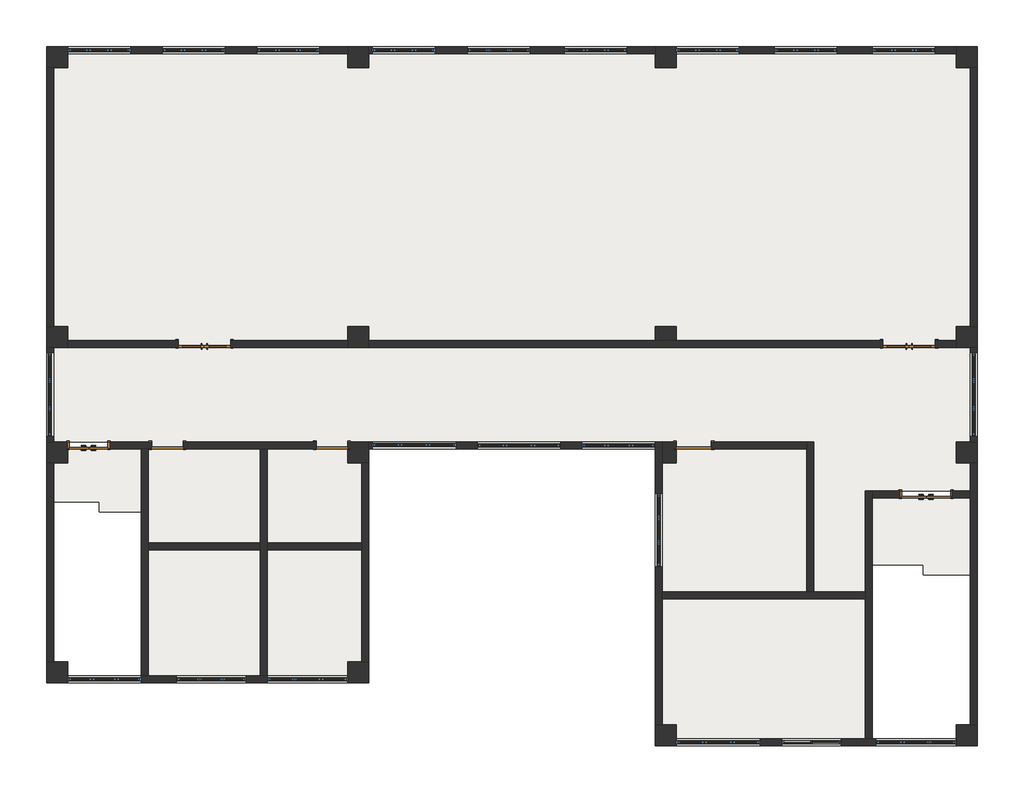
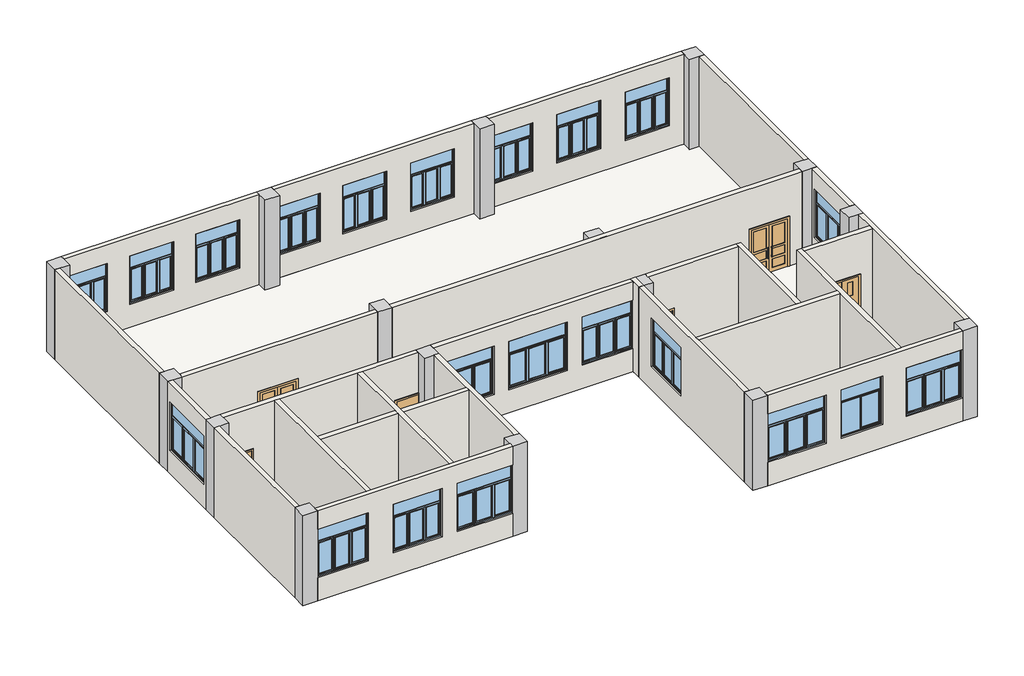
# One storey: 25 walls, 21 windows, 16 columns, 7 doors, 3 slabs.
"""IFC4 building model written with IfcOpenShell, lengths in millimetres."""

from ifc_helpers import new_model, si_unit, frame, origin, place, context, project, spatial, polyline, outline, extrude, faceted_brep, transform, mapped, element, save
from components import column_600x600_242b05fc, fm1221_e838069c, fm1521_f2745f28, m0921_bb00f214, m0921_8cb0c558, m1021_0d59c61f, m1221_b3a166ca, m1521_8e1836e7, c1721_525d0301, c1821_f95a3a67, c2021_733b1f83, c2121_4e8fcc55, c2321_a531f027, c2421_0f87a412

model = new_model("IFC4")

# Units and contexts
model_context = context("Model", 3, world=origin())
ifc_project = project(units=[si_unit("LENGTHUNIT", "METRE", prefix="MILLI")], contexts=[model_context])

# Site, building, storey
site = spatial("IfcSite", under=ifc_project)
building = spatial("IfcBuilding", under=site)
storey = spatial("IfcBuildingStorey", under=building, Name="标高 6", Elevation=14900.0)

# Columns
placement = place(None, origin())
column_600x600_shape = column_600x600_242b05fc(model_context)
element("IfcColumn", 1, ObjectType="混凝土 - 矩形 - 柱 : 600x600", at=placement, inside=storey, context=model_context, shape_type="MappedRepresentation", body=[
    mapped(column_600x600_shape, transform((-12381.7675258, -8436.6725016, 0.0), x_axis=(1.0, 0.0, 0.0), y_axis=(0.0, 1.0, 0.0), z_axis=(0.0, 0.0, 1.0))),
])
element("IfcColumn", 2, ObjectType="混凝土 - 矩形 - 柱 : 600x600", at=placement, inside=storey, context=model_context, shape_type="MappedRepresentation", body=[
    mapped(column_600x600_shape, transform((-12381.7675258, -2136.6725016, 0.0), x_axis=(1.0, 0.0, 0.0), y_axis=(0.0, 1.0, 0.0), z_axis=(0.0, 0.0, 1.0))),
])
element("IfcColumn", 3, ObjectType="混凝土 - 矩形 - 柱 : 600x600", at=placement, inside=storey, context=model_context, shape_type="MappedRepresentation", body=[
    mapped(column_600x600_shape, transform((-12381.7675258, 1163.3274984, 0.0), x_axis=(1.0, 0.0, 0.0), y_axis=(0.0, 1.0, 0.0), z_axis=(0.0, 0.0, 1.0))),
])
element("IfcColumn", 4, ObjectType="混凝土 - 矩形 - 柱 : 600x600", at=placement, inside=storey, context=model_context, shape_type="MappedRepresentation", body=[
    mapped(column_600x600_shape, transform((-12381.7675258, 9163.3274984, 0.0), x_axis=(1.0, 0.0, 0.0), y_axis=(0.0, 1.0, 0.0), z_axis=(0.0, 0.0, 1.0))),
])
element("IfcColumn", 5, ObjectType="混凝土 - 矩形 - 柱 : 600x600", at=placement, inside=storey, context=model_context, shape_type="MappedRepresentation", body=[
    mapped(column_600x600_shape, transform((-3781.7675258, -8436.6725016, 0.0), x_axis=(1.0, 0.0, 0.0), y_axis=(0.0, 1.0, 0.0), z_axis=(0.0, 0.0, 1.0))),
])
element("IfcColumn", 6, ObjectType="混凝土 - 矩形 - 柱 : 600x600", at=placement, inside=storey, context=model_context, shape_type="MappedRepresentation", body=[
    mapped(column_600x600_shape, transform((-3781.7675258, -2136.6725016, 0.0), x_axis=(1.0, 0.0, 0.0), y_axis=(0.0, 1.0, 0.0), z_axis=(0.0, 0.0, 1.0))),
])
element("IfcColumn", 7, ObjectType="混凝土 - 矩形 - 柱 : 600x600", at=placement, inside=storey, context=model_context, shape_type="MappedRepresentation", body=[
    mapped(column_600x600_shape, transform((-3781.7675258, 1163.3274984, 0.0), x_axis=(1.0, 0.0, 0.0), y_axis=(0.0, 1.0, 0.0), z_axis=(0.0, 0.0, 1.0))),
])
element("IfcColumn", 8, ObjectType="混凝土 - 矩形 - 柱 : 600x600", at=placement, inside=storey, context=model_context, shape_type="MappedRepresentation", body=[
    mapped(column_600x600_shape, transform((-3781.7675258, 9163.3274984, 0.0), x_axis=(1.0, 0.0, 0.0), y_axis=(0.0, 1.0, 0.0), z_axis=(0.0, 0.0, 1.0))),
])
element("IfcColumn", 9, ObjectType="混凝土 - 矩形 - 柱 : 600x600", at=placement, inside=storey, context=model_context, shape_type="MappedRepresentation", body=[
    mapped(column_600x600_shape, transform((5018.2324742, -10236.6725016, 0.0), x_axis=(1.0, 0.0, 0.0), y_axis=(0.0, 1.0, 0.0), z_axis=(0.0, 0.0, 1.0))),
])
element("IfcColumn", 10, ObjectType="混凝土 - 矩形 - 柱 : 600x600", at=placement, inside=storey, context=model_context, shape_type="MappedRepresentation", body=[
    mapped(column_600x600_shape, transform((5018.2324742, -2136.6725016, 0.0), x_axis=(1.0, 0.0, 0.0), y_axis=(0.0, 1.0, 0.0), z_axis=(0.0, 0.0, 1.0))),
])
element("IfcColumn", 11, ObjectType="混凝土 - 矩形 - 柱 : 600x600", at=placement, inside=storey, context=model_context, shape_type="MappedRepresentation", body=[
    mapped(column_600x600_shape, transform((5018.2324742, 1163.3274984, 0.0), x_axis=(1.0, 0.0, 0.0), y_axis=(0.0, 1.0, 0.0), z_axis=(0.0, 0.0, 1.0))),
])
element("IfcColumn", 12, ObjectType="混凝土 - 矩形 - 柱 : 600x600", at=placement, inside=storey, context=model_context, shape_type="MappedRepresentation", body=[
    mapped(column_600x600_shape, transform((5018.2324742, 9163.3274984, 0.0), x_axis=(1.0, 0.0, 0.0), y_axis=(0.0, 1.0, 0.0), z_axis=(0.0, 0.0, 1.0))),
])
element("IfcColumn", 13, ObjectType="混凝土 - 矩形 - 柱 : 600x600", at=placement, inside=storey, context=model_context, shape_type="MappedRepresentation", body=[
    mapped(column_600x600_shape, transform((13618.2324742, -10236.6725016, 0.0), x_axis=(1.0, 0.0, 0.0), y_axis=(0.0, 1.0, 0.0), z_axis=(0.0, 0.0, 1.0))),
])
element("IfcColumn", 14, ObjectType="混凝土 - 矩形 - 柱 : 600x600", at=placement, inside=storey, context=model_context, shape_type="MappedRepresentation", body=[
    mapped(column_600x600_shape, transform((13618.2324742, -2136.6725016, 0.0), x_axis=(1.0, 0.0, 0.0), y_axis=(0.0, 1.0, 0.0), z_axis=(0.0, 0.0, 1.0))),
])
element("IfcColumn", 15, ObjectType="混凝土 - 矩形 - 柱 : 600x600", at=placement, inside=storey, context=model_context, shape_type="MappedRepresentation", body=[
    mapped(column_600x600_shape, transform((13618.2324742, 1163.3274984, 0.0), x_axis=(1.0, 0.0, 0.0), y_axis=(0.0, 1.0, 0.0), z_axis=(0.0, 0.0, 1.0))),
])
element("IfcColumn", 16, ObjectType="混凝土 - 矩形 - 柱 : 600x600", at=placement, inside=storey, context=model_context, shape_type="MappedRepresentation", body=[
    mapped(column_600x600_shape, transform((13618.2324742, 9163.3274984, 0.0), x_axis=(1.0, 0.0, 0.0), y_axis=(0.0, 1.0, 0.0), z_axis=(0.0, 0.0, 1.0))),
])

# Doors
fm1221_shape = fm1221_e838069c(model_context)
element("IfcDoor", 17, ObjectType="双扇防火门 : FM1221", at=placement, inside=storey, context=model_context, shape_type="MappedRepresentation", body=[
    mapped(fm1221_shape, transform((-11481.7675258, -1936.6725016, 14900.0), x_axis=(-1.0, 0.0, 0.0), y_axis=(0.0, -1.0, 0.0), z_axis=(0.0, 0.0, 1.0))),
])
fm1521_shape = fm1521_f2745f28(model_context)
element("IfcDoor", 18, ObjectType="双扇防火门 : FM1521", at=placement, inside=storey, context=model_context, shape_type="MappedRepresentation", body=[
    mapped(fm1521_shape, transform((12448.2324742, -3336.6725016, 14900.0), x_axis=(-1.0, 0.0, 0.0), y_axis=(0.0, -1.0, 0.0), z_axis=(0.0, 0.0, 1.0))),
])
m0921_shape = m0921_bb00f214(model_context)
element("IfcDoor", 19, ObjectType="单扇 - 与墙齐 : M0921", at=placement, inside=storey, context=model_context, shape_type="MappedRepresentation", body=[
    mapped(m0921_shape, transform((-4531.7675258, -1936.6725016, 14900.0), x_axis=(1.0, 0.0, 0.0), y_axis=(0.0, 1.0, 0.0), z_axis=(0.0, 0.0, 1.0))),
])
m0921_2_shape = m0921_8cb0c558(model_context)
element("IfcDoor", 20, ObjectType="单扇 - 与墙齐 : M0921", at=placement, inside=storey, context=model_context, shape_type="MappedRepresentation", body=[
    mapped(m0921_2_shape, transform((-9231.7675258, -1936.6725016, 14900.0), x_axis=(-1.0, 0.0, 0.0), y_axis=(0.0, -1.0, 0.0), z_axis=(0.0, 0.0, 1.0))),
])
m1021_shape = m1021_0d59c61f(model_context)
element("IfcDoor", 21, ObjectType="单扇 - 与墙齐 : M1021", at=placement, inside=storey, context=model_context, shape_type="MappedRepresentation", body=[
    mapped(m1021_shape, transform((5818.2324742, -1936.6725016, 14900.0), x_axis=(-1.0, 0.0, 0.0), y_axis=(0.0, -1.0, 0.0), z_axis=(0.0, 0.0, 1.0))),
])
m1221_shape = m1221_b3a166ca(model_context)
m1521_shape = m1521_8e1836e7(model_context)
element("IfcDoor", 22, ObjectType="双面嵌板木门 2 : M1521", at=placement, inside=storey, context=model_context, shape_type="MappedRepresentation", body=[
    mapped(m1221_shape, transform((-8171.7675258, 963.3274984, 14900.0), x_axis=(-1.0, 0.0, 0.0), y_axis=(0.0, -1.0, 0.0), z_axis=(0.0, 0.0, 1.0))),
    mapped(m1521_shape, transform((-8171.7675258, 963.3274984, 14900.0), x_axis=(-1.0, 0.0, 0.0), y_axis=(0.0, -1.0, 0.0), z_axis=(0.0, 0.0, 1.0))),
])
element("IfcDoor", 23, ObjectType="双面嵌板木门 2 : M1521", at=placement, inside=storey, context=model_context, shape_type="MappedRepresentation", body=[
    mapped(m1221_shape, transform((11968.2324742, 963.3274984, 14900.0), x_axis=(-1.0, 0.0, 0.0), y_axis=(0.0, -1.0, 0.0), z_axis=(0.0, 0.0, 1.0))),
    mapped(m1521_shape, transform((11968.2324742, 963.3274984, 14900.0), x_axis=(-1.0, 0.0, 0.0), y_axis=(0.0, -1.0, 0.0), z_axis=(0.0, 0.0, 1.0))),
])

# Slabs
element("IfcSlab", 24, ObjectType="楼板-120", at=placement, inside=storey, context=model_context, shape_type="SweptSolid", body=[
    extrude(outline(polyline([(13718.2324742, 9263.3274984), (13718.2324742, -3236.6725016), (10718.2324742, -3236.6725016), (10718.2324742, -10336.6725016), (4918.2324742, -10336.6725016), (4918.2324742, -1836.6725016), (-3681.7675258, -1836.6725016), (-3681.7675258, -8536.6725016), (-9781.7675258, -8536.6725016), (-9781.7675258, -1836.6725016), (-12481.7675258, -1836.6725016), (-12481.7675258, 9263.3274984), (13718.2324742, 9263.3274984)])), frame((0.0, 0.0, 14780.0), z_axis=(0.0, 0.0, 1.0), x_axis=(1.0, 0.0, 0.0)), (0.0, 0.0, 1.0), 120.0),
])
element("IfcSlab", 25, ObjectType="楼板-120", at=placement, inside=storey, context=model_context, shape_type="SweptSolid", body=[
    extrude(outline(polyline([(-9987.1675258, -3836.6725016), (-11171.3675258, -3836.6725016), (-11171.3675258, -3556.6725016), (-12476.3675258, -3556.6725016), (-12476.3675258, -2436.6725016), (-12081.7675258, -2436.6725016), (-12081.7675258, -2030.3725016), (-9981.7486258, -2030.3725016), (-9987.1675258, -3836.6725016)])), frame((0.0, 0.0, 14780.0), z_axis=(0.0, 0.0, 1.0), x_axis=(1.0, 0.0, 0.0)), (0.0, 0.0, 1.0), 120.0),
])
element("IfcSlab", 26, ObjectType="楼板-120", at=placement, inside=storey, context=model_context, shape_type="SweptSolid", body=[
    extrude(outline(polyline([(13718.2324742, -3436.6725016), (13718.2324742, -5636.6725016), (12368.2324742, -5636.6725016), (12368.2324742, -5356.6725016), (10913.6324742, -5356.6725016), (10913.6324742, -3436.6725016), (13718.2324742, -3436.6725016)])), frame((0.0, 0.0, 14780.0), z_axis=(0.0, 0.0, 1.0), x_axis=(1.0, 0.0, 0.0)), (0.0, 0.0, 1.0), 120.0),
])

# Walls
element("IfcWall", 27, ObjectType="Q-200", at=placement, inside=storey, context=model_context, shape_type="SweptSolid", body=[
    extrude(outline(polyline([(18800.0, -12081.7675258), (18000.0, -12081.7675258), (18000.0, -10281.7675258), (15900.0, -10281.7675258), (15900.0, -12081.7675258), (14900.0, -12081.7675258), (14900.0, -4081.7675258), (18800.0, -4081.7675258), (18800.0, -12081.7675258)]), holes=[polyline([(15900.0, -6681.7675258), (18000.0, -6681.7675258), (18000.0, -4881.7675258), (15900.0, -4881.7675258), (15900.0, -6681.7675258)]), polyline([(15900.0, -9381.7675258), (18000.0, -9381.7675258), (18000.0, -7581.7675258), (15900.0, -7581.7675258), (15900.0, -9381.7675258)])]), frame((0.0, 9263.3274984, 0.0), z_axis=(0.0, 1.0, 0.0), x_axis=(0.0, 0.0, 1.0)), (0.0, 0.0, 1.0), 200.0),
])
element("IfcWall", 28, ObjectType="Q-200", at=placement, inside=storey, context=model_context, shape_type="SweptSolid", body=[
    extrude(outline(polyline([(14900.0, -3481.7675258), (14900.0, 4718.2324742), (18800.0, 4718.2324742), (18800.0, -3481.7675258), (14900.0, -3481.7675258)]), holes=[polyline([(15900.0, 2118.2324742), (18000.0, 2118.2324742), (18000.0, 3918.2324742), (15900.0, 3918.2324742), (15900.0, 2118.2324742)]), polyline([(15900.0, -661.7675258), (18000.0, -661.7675258), (18000.0, 1138.2324742), (15900.0, 1138.2324742), (15900.0, -661.7675258)]), polyline([(15900.0, -3381.7675258), (18000.0, -3381.7675258), (18000.0, -1581.7675258), (15900.0, -1581.7675258), (15900.0, -3381.7675258)])]), frame((0.0, 9263.3274984, 0.0), z_axis=(0.0, 1.0, 0.0), x_axis=(0.0, 0.0, 1.0)), (0.0, 0.0, 1.0), 200.0),
])
element("IfcWall", 29, ObjectType="Q-200", at=placement, inside=storey, context=model_context, shape_type="SweptSolid", body=[
    extrude(outline(polyline([(14900.0, 5318.2324742), (14900.0, 13318.2324742), (18800.0, 13318.2324742), (18800.0, 5318.2324742), (18000.0, 5318.2324742), (18000.0, 7118.2324742), (15900.0, 7118.2324742), (15900.0, 5318.2324742), (14900.0, 5318.2324742)]), holes=[polyline([(15900.0, 10918.2324742), (18000.0, 10918.2324742), (18000.0, 12718.2324742), (15900.0, 12718.2324742), (15900.0, 10918.2324742)]), polyline([(15900.0, 8118.2324742), (18000.0, 8118.2324742), (18000.0, 9918.2324742), (15900.0, 9918.2324742), (15900.0, 8118.2324742)])]), frame((0.0, 9263.3274984, 0.0), z_axis=(0.0, 1.0, 0.0), x_axis=(0.0, 0.0, 1.0)), (0.0, 0.0, 1.0), 200.0),
])
element("IfcWall", 30, ObjectType="Q-200", at=placement, inside=storey, context=model_context, shape_type="SweptSolid", body=[
    extrude(outline(polyline([(13718.2324742, 1463.3274984), (13718.2324742, 8863.3274984), (13918.2324742, 8863.3274984), (13918.2324742, 1463.3274984), (13718.2324742, 1463.3274984)])), frame((0.0, 0.0, 14900.0), z_axis=(0.0, 0.0, 1.0), x_axis=(1.0, 0.0, 0.0)), (0.0, 0.0, 1.0), 3900.0),
])
element("IfcWall", 31, ObjectType="Q-200", at=placement, inside=storey, context=model_context, shape_type="SweptSolid", body=[
    extrude(outline(polyline([(863.3274984, 14900.0), (-1836.6725016, 14900.0), (-1836.6725016, 18800.0), (863.3274984, 18800.0), (863.3274984, 14900.0)]), holes=[polyline([(713.3274984, 15900.0), (713.3274984, 18000.0), (-1686.6725016, 18000.0), (-1686.6725016, 15900.0), (713.3274984, 15900.0)])]), frame((13718.2324742, 0.0, 0.0), z_axis=(1.0, 0.0, 0.0), x_axis=(0.0, 1.0, 0.0)), (0.0, 0.0, 1.0), 200.0),
])
element("IfcWall", 32, ObjectType="Q-200", at=placement, inside=storey, context=model_context, shape_type="Brep", body=[
    faceted_brep([(13718.2324742, -2436.6725016, 14900.0), (13718.2324742, -3236.6725016, 14900.0), (13718.2324742, -3436.6725016, 14900.0), (13718.2324742, -9936.6725016, 14900.0), (13718.2324742, -9936.6725016, 18800.0), (13718.2324742, -3436.6725016, 18800.0), (13718.2324742, -3236.6725016, 18800.0), (13718.2324742, -2436.6725016, 18800.0), (13918.2324742, -2436.6725016, 14900.0), (13918.2324742, -2436.6725016, 18800.0), (13918.2324742, -9936.6725016, 18800.0), (13918.2324742, -9936.6725016, 14900.0)], [[[0, 1, 2, 3, 4, 5, 6, 7]], [[8, 9, 10, 11]], [[3, 2, 1, 0, 8, 11]], [[4, 3, 11, 10]], [[7, 6, 5, 4, 10, 9]], [[0, 7, 9, 8]]]),
])
element("IfcWall", 33, ObjectType="Q-200", at=placement, inside=storey, context=model_context, shape_type="Brep", body=[
    faceted_brep([(5318.2324742, -10336.6725016, 14900.0), (5318.2324742, -10336.6725016, 15900.0), (7718.2324742, -10336.6725016, 15900.0), (7718.2324742, -10336.6725016, 18000.0), (5318.2324742, -10336.6725016, 18000.0), (5318.2324742, -10336.6725016, 18800.0), (10718.2324742, -10336.6725016, 18800.0), (10918.2324742, -10336.6725016, 18800.0), (13318.2324742, -10336.6725016, 18800.0), (13318.2324742, -10336.6725016, 14900.0), (10918.2324742, -10336.6725016, 14900.0), (10718.2324742, -10336.6725016, 14900.0), (13308.2324742, -10336.6725016, 15900.0), (13308.2324742, -10336.6725016, 18000.0), (11008.2324742, -10336.6725016, 18000.0), (11008.2324742, -10336.6725016, 15900.0), (10028.2324742, -10336.6725016, 15900.0), (10028.2324742, -10336.6725016, 18000.0), (8328.2324742, -10336.6725016, 18000.0), (8328.2324742, -10336.6725016, 15900.0), (7718.2324742, -10536.6725016, 15900.0), (5318.2324742, -10536.6725016, 15900.0), (5318.2324742, -10536.6725016, 14900.0), (13318.2324742, -10536.6725016, 14900.0), (13318.2324742, -10536.6725016, 18800.0), (5318.2324742, -10536.6725016, 18800.0), (5318.2324742, -10536.6725016, 18000.0), (7718.2324742, -10536.6725016, 18000.0), (13308.2324742, -10536.6725016, 15900.0), (11008.2324742, -10536.6725016, 15900.0), (11008.2324742, -10536.6725016, 18000.0), (13308.2324742, -10536.6725016, 18000.0), (10028.2324742, -10536.6725016, 15900.0), (8328.2324742, -10536.6725016, 15900.0), (8328.2324742, -10536.6725016, 18000.0), (10028.2324742, -10536.6725016, 18000.0)], [[[0, 1, 2, 3, 4, 5, 6, 7, 8, 9, 10, 11], [12, 13, 14, 15], [16, 17, 18, 19]], [[20, 21, 22, 23, 24, 25, 26, 27], [28, 29, 30, 31], [32, 33, 34, 35]], [[0, 11, 10, 9, 23, 22]], [[26, 25, 5, 4]], [[22, 21, 1, 0]], [[8, 7, 6, 5, 25, 24]], [[9, 8, 24, 23]], [[3, 2, 20, 27]], [[4, 3, 27, 26]], [[2, 1, 21, 20]], [[13, 12, 28, 31]], [[14, 13, 31, 30]], [[15, 14, 30, 29]], [[12, 15, 29, 28]], [[17, 16, 32, 35]], [[18, 17, 35, 34]], [[19, 18, 34, 33]], [[16, 19, 33, 32]]]),
])
element("IfcWall", 34, ObjectType="Q-200", at=placement, inside=storey, context=model_context, shape_type="Brep", body=[
    faceted_brep([(4918.2324742, -9936.6725016, 14900.0), (4918.2324742, -6336.6725016, 14900.0), (4918.2324742, -6136.6725016, 14900.0), (4918.2324742, -1836.6725016, 14900.0), (4918.2324742, -1836.6725016, 18800.0), (4918.2324742, -6136.6725016, 18800.0), (4918.2324742, -6336.6725016, 18800.0), (4918.2324742, -9936.6725016, 18800.0), (4918.2324742, -3316.6725016, 15900.0), (4918.2324742, -5416.6725016, 15900.0), (4918.2324742, -5416.6725016, 18000.0), (4918.2324742, -3316.6725016, 18000.0), (4718.2324742, -9936.6725016, 14900.0), (4718.2324742, -9936.6725016, 18800.0), (4718.2324742, -2036.6725016, 18800.0), (4718.2324742, -1836.6725016, 18800.0), (4718.2324742, -1836.6725016, 18000.0), (4718.2324742, -1836.6725016, 15900.0), (4718.2324742, -1836.6725016, 14900.0), (4718.2324742, -2036.6725016, 14900.0), (4718.2324742, -3316.6725016, 15900.0), (4718.2324742, -3316.6725016, 18000.0), (4718.2324742, -5416.6725016, 18000.0), (4718.2324742, -5416.6725016, 15900.0)], [[[0, 1, 2, 3, 4, 5, 6, 7], [8, 9, 10, 11]], [[12, 13, 14, 15, 16, 17, 18, 19], [20, 21, 22, 23]], [[3, 2, 1, 0, 12, 19, 18]], [[7, 6, 5, 4, 15, 14, 13]], [[0, 7, 13, 12]], [[4, 3, 18, 17, 16, 15]], [[21, 20, 8, 11]], [[22, 21, 11, 10]], [[23, 22, 10, 9]], [[20, 23, 9, 8]]]),
])
element("IfcWall", 35, ObjectType="Q-200", at=placement, inside=storey, context=model_context, shape_type="SweptSolid", body=[
    extrude(outline(polyline([(14900.0, 4718.2324742), (15900.0, 4718.2324742), (15900.0, 2618.2324742), (18000.0, 2618.2324742), (18000.0, 4718.2324742), (18800.0, 4718.2324742), (18800.0, -3481.7675258), (14900.0, -3481.7675258), (14900.0, 4718.2324742)]), holes=[polyline([(15900.0, -981.7675258), (15900.0, -3381.7675258), (18000.0, -3381.7675258), (18000.0, -981.7675258), (15900.0, -981.7675258)]), polyline([(15900.0, -381.7675258), (18000.0, -381.7675258), (18000.0, 2018.2324742), (15900.0, 2018.2324742), (15900.0, -381.7675258)])]), frame((0.0, -2036.6725016, 0.0), z_axis=(0.0, 1.0, 0.0), x_axis=(0.0, 0.0, 1.0)), (0.0, 0.0, 1.0), 200.0),
])
element("IfcWall", 36, ObjectType="Q-200", at=placement, inside=storey, context=model_context, shape_type="Brep", body=[
    faceted_brep([(-3681.7675258, -2436.6725016, 14900.0), (-3681.7675258, -4736.6725016, 14900.0), (-3681.7675258, -4936.6725016, 14900.0), (-3681.7675258, -8136.6725016, 14900.0), (-3681.7675258, -8136.6725016, 18800.0), (-3681.7675258, -4936.6725016, 18800.0), (-3681.7675258, -4736.6725016, 18800.0), (-3681.7675258, -2436.6725016, 18800.0), (-3481.7675258, -2436.6725016, 14900.0), (-3481.7675258, -2436.6725016, 18800.0), (-3481.7675258, -8136.6725016, 18800.0), (-3481.7675258, -8136.6725016, 14900.0)], [[[0, 1, 2, 3, 4, 5, 6, 7]], [[8, 9, 10, 11]], [[3, 2, 1, 0, 8, 11]], [[4, 3, 11, 10]], [[7, 6, 5, 4, 10, 9]], [[0, 7, 9, 8]]]),
])
element("IfcWall", 37, ObjectType="Q-200", at=placement, inside=storey, context=model_context, shape_type="Brep", body=[
    faceted_brep([(-12081.7675258, -8536.6725016, 14900.0), (-12081.7675258, -8536.6725016, 15900.0), (-9981.7675258, -8536.6725016, 15900.0), (-9981.7675258, -8536.6725016, 18000.0), (-12081.7675258, -8536.6725016, 18000.0), (-12081.7675258, -8536.6725016, 18800.0), (-9981.7675258, -8536.6725016, 18800.0), (-9781.7675258, -8536.6725016, 18800.0), (-6581.7675258, -8536.6725016, 18800.0), (-6381.7675258, -8536.6725016, 18800.0), (-4081.7675258, -8536.6725016, 18800.0), (-4081.7675258, -8536.6725016, 18000.0), (-6373.5634478, -8536.6725016, 18000.0), (-6373.5634478, -8536.6725016, 15900.0), (-4081.7675258, -8536.6725016, 15900.0), (-4081.7675258, -8536.6725016, 14900.0), (-6381.7675258, -8536.6725016, 14900.0), (-6581.7675258, -8536.6725016, 14900.0), (-9781.7675258, -8536.6725016, 14900.0), (-9981.7675258, -8536.6725016, 14900.0), (-6981.7675258, -8536.6725016, 15900.0), (-6981.7675258, -8536.6725016, 18000.0), (-8981.7675258, -8536.6725016, 18000.0), (-8981.7675258, -8536.6725016, 15900.0), (-9981.7675258, -8736.6725016, 15900.0), (-12081.7675258, -8736.6725016, 15900.0), (-12081.7675258, -8736.6725016, 14900.0), (-4081.7675258, -8736.6725016, 14900.0), (-4081.7675258, -8736.6725016, 15900.0), (-6373.5634478, -8736.6725016, 15900.0), (-6373.5634478, -8736.6725016, 18000.0), (-4081.7675258, -8736.6725016, 18000.0), (-4081.7675258, -8736.6725016, 18800.0), (-12081.7675258, -8736.6725016, 18800.0), (-12081.7675258, -8736.6725016, 18000.0), (-9981.7675258, -8736.6725016, 18000.0), (-6981.7675258, -8736.6725016, 15900.0), (-8981.7675258, -8736.6725016, 15900.0), (-8981.7675258, -8736.6725016, 18000.0), (-6981.7675258, -8736.6725016, 18000.0)], [[[0, 1, 2, 3, 4, 5, 6, 7, 8, 9, 10, 11, 12, 13, 14, 15, 16, 17, 18, 19], [20, 21, 22, 23]], [[24, 25, 26, 27, 28, 29, 30, 31, 32, 33, 34, 35], [36, 37, 38, 39]], [[0, 19, 18, 17, 16, 15, 27, 26]], [[34, 33, 5, 4]], [[26, 25, 1, 0]], [[10, 9, 8, 7, 6, 5, 33, 32]], [[10, 32, 31, 11]], [[27, 15, 14, 28]], [[30, 12, 11, 31]], [[12, 30, 29, 13]], [[13, 29, 28, 14]], [[21, 20, 36, 39]], [[22, 21, 39, 38]], [[23, 22, 38, 37]], [[20, 23, 37, 36]], [[3, 2, 24, 35]], [[4, 3, 35, 34]], [[2, 1, 25, 24]]]),
])
element("IfcWall", 38, ObjectType="Q-200", at=placement, inside=storey, context=model_context, shape_type="SweptSolid", body=[
    extrude(outline(polyline([(-12481.7675258, -2436.6725016), (-12481.7675258, -8136.6725016), (-12681.7675258, -8136.6725016), (-12681.7675258, -2436.6725016), (-12481.7675258, -2436.6725016)])), frame((0.0, 0.0, 14900.0), z_axis=(0.0, 0.0, 1.0), x_axis=(1.0, 0.0, 0.0)), (0.0, 0.0, 1.0), 3900.0),
])
element("IfcWall", 39, ObjectType="Q-200", at=placement, inside=storey, context=model_context, shape_type="SweptSolid", body=[
    extrude(outline(polyline([(-1836.6725016, 14900.0), (-1836.6725016, 18800.0), (863.3274984, 18800.0), (863.3274984, 14900.0), (-1836.6725016, 14900.0)]), holes=[polyline([(713.3274984, 15900.0), (713.3274984, 18000.0), (-1686.6725016, 18000.0), (-1686.6725016, 15900.0), (713.3274984, 15900.0)])]), frame((-12681.7675258, 0.0, 0.0), z_axis=(1.0, 0.0, 0.0), x_axis=(0.0, 1.0, 0.0)), (0.0, 0.0, 1.0), 200.0),
])
element("IfcWall", 40, ObjectType="Q-200", at=placement, inside=storey, context=model_context, shape_type="SweptSolid", body=[
    extrude(outline(polyline([(-12481.7675258, 8863.3274984), (-12481.7675258, 1463.3274984), (-12681.7675258, 1463.3274984), (-12681.7675258, 8863.3274984), (-12481.7675258, 8863.3274984)])), frame((0.0, 0.0, 14900.0), z_axis=(0.0, 0.0, 1.0), x_axis=(1.0, 0.0, 0.0)), (0.0, 0.0, 1.0), 3900.0),
])
element("IfcWall", 41, ObjectType="Q-200", at=placement, inside=storey, context=model_context, shape_type="SweptSolid", body=[
    extrude(outline(polyline([(14900.0, -4081.7675258), (18800.0, -4081.7675258), (18800.0, -12081.7675258), (14900.0, -12081.7675258), (14900.0, -8921.7675258), (17000.0, -8921.7675258), (17000.0, -7421.7675258), (14900.0, -7421.7675258), (14900.0, -4081.7675258)])), frame((0.0, 863.3274984, 0.0), z_axis=(0.0, 1.0, 0.0), x_axis=(0.0, 0.0, 1.0)), (0.0, 0.0, 1.0), 200.0),
])
element("IfcWall", 42, ObjectType="Q-200", at=placement, inside=storey, context=model_context, shape_type="SweptSolid", body=[
    extrude(outline(polyline([(14900.0, 13318.2324742), (18800.0, 13318.2324742), (18800.0, -3481.7675258), (14900.0, -3481.7675258), (14900.0, 11218.2324742), (17000.0, 11218.2324742), (17000.0, 12718.2324742), (14900.0, 12718.2324742), (14900.0, 13318.2324742)])), frame((0.0, 863.3274984, 0.0), z_axis=(0.0, 1.0, 0.0), x_axis=(0.0, 0.0, 1.0)), (0.0, 0.0, 1.0), 200.0),
])
element("IfcWall", 43, ObjectType="Q-200", at=placement, inside=storey, context=model_context, shape_type="Brep", body=[
    faceted_brep([(-4081.7675258, -2036.6725016, 18800.0), (-6381.7675258, -2036.6725016, 18800.0), (-6581.7675258, -2036.6725016, 18800.0), (-9781.7675258, -2036.6725016, 18800.0), (-9981.7675258, -2036.6725016, 18800.0), (-12081.7675258, -2036.6725016, 18800.0), (-12081.7675258, -2036.6725016, 17000.0), (-10881.7675258, -2036.6725016, 17000.0), (-10881.7675258, -2036.6725016, 14900.0), (-9981.7675258, -2036.6725016, 14900.0), (-9781.7675258, -2036.6725016, 14900.0), (-9681.7675258, -2036.6725016, 14900.0), (-9681.7675258, -2036.6725016, 17000.0), (-8781.7675258, -2036.6725016, 17000.0), (-8781.7675258, -2036.6725016, 14900.0), (-6581.7675258, -2036.6725016, 14900.0), (-6381.7675258, -2036.6725016, 14900.0), (-4981.7675258, -2036.6725016, 14900.0), (-4981.7675258, -2036.6725016, 17000.0), (-4081.7675258, -2036.6725016, 17000.0), (-12081.7675258, -1836.6725016, 18800.0), (-4081.7675258, -1836.6725016, 18800.0), (-4081.7675258, -1836.6725016, 17000.0), (-4981.7675258, -1836.6725016, 17000.0), (-4981.7675258, -1836.6725016, 14900.0), (-8781.7675258, -1836.6725016, 14900.0), (-8781.7675258, -1836.6725016, 17000.0), (-9681.7675258, -1836.6725016, 17000.0), (-9681.7675258, -1836.6725016, 14900.0), (-10881.7675258, -1836.6725016, 14900.0), (-10881.7675258, -1836.6725016, 17000.0), (-12081.7675258, -1836.6725016, 17000.0)], [[[0, 1, 2, 3, 4, 5, 6, 7, 8, 9, 10, 11, 12, 13, 14, 15, 16, 17, 18, 19]], [[20, 21, 22, 23, 24, 25, 26, 27, 28, 29, 30, 31]], [[8, 29, 28, 11, 10, 9]], [[14, 25, 24, 17, 16, 15]], [[21, 0, 19, 22]], [[5, 4, 3, 2, 1, 0, 21, 20]], [[5, 20, 31, 6]], [[30, 7, 6, 31]], [[7, 30, 29, 8]], [[12, 11, 28, 27]], [[13, 12, 27, 26]], [[14, 13, 26, 25]], [[18, 23, 22, 19]], [[23, 18, 17, 24]]]),
])
element("IfcWall", 44, ObjectType="Q-200", at=placement, inside=storey, context=model_context, shape_type="Brep", body=[
    faceted_brep([(-9981.7675258, -2036.6725016, 14900.0), (-9981.7675258, -8536.6725016, 14900.0), (-9981.7675258, -8536.6725016, 15900.0), (-9981.7675258, -8536.6725016, 18000.0), (-9981.7675258, -8536.6725016, 18800.0), (-9981.7675258, -2036.6725016, 18800.0), (-9781.7675258, -2036.6725016, 14900.0), (-9781.7675258, -2036.6725016, 18800.0), (-9781.7675258, -4736.6725016, 18800.0), (-9781.7675258, -4936.6725016, 18800.0), (-9781.7675258, -8536.6725016, 18800.0), (-9781.7675258, -8536.6725016, 14900.0), (-9781.7675258, -4936.6725016, 14900.0), (-9781.7675258, -4736.6725016, 14900.0)], [[[0, 1, 2, 3, 4, 5]], [[6, 7, 8, 9, 10, 11, 12, 13]], [[1, 0, 6, 13, 12, 11]], [[5, 4, 10, 9, 8, 7]], [[4, 3, 2, 1, 11, 10]], [[0, 5, 7, 6]]]),
])
element("IfcWall", 45, ObjectType="Q-200", at=placement, inside=storey, context=model_context, shape_type="Brep", body=[
    faceted_brep([(-6381.7675258, -8536.6725016, 14900.0), (-6381.7675258, -4936.6725016, 14900.0), (-6381.7675258, -4736.6725016, 14900.0), (-6381.7675258, -2036.6725016, 14900.0), (-6381.7675258, -2036.6725016, 18800.0), (-6381.7675258, -4736.6725016, 18800.0), (-6381.7675258, -4936.6725016, 18800.0), (-6381.7675258, -8536.6725016, 18800.0), (-6581.7675258, -8536.6725016, 14900.0), (-6581.7675258, -8536.6725016, 18800.0), (-6581.7675258, -4936.6725016, 18800.0), (-6581.7675258, -4736.6725016, 18800.0), (-6581.7675258, -2036.6725016, 18800.0), (-6581.7675258, -2036.6725016, 14900.0), (-6581.7675258, -4736.6725016, 14900.0), (-6581.7675258, -4936.6725016, 14900.0)], [[[0, 1, 2, 3, 4, 5, 6, 7]], [[8, 9, 10, 11, 12, 13, 14, 15]], [[3, 2, 1, 0, 8, 15, 14, 13]], [[7, 6, 5, 4, 12, 11, 10, 9]], [[0, 7, 9, 8]], [[4, 3, 13, 12]]]),
])
element("IfcWall", 46, ObjectType="Q-200", at=placement, inside=storey, context=model_context, shape_type="Brep", body=[
    faceted_brep([(10918.2324742, -10336.6725016, 14900.0), (10918.2324742, -3436.6725016, 14900.0), (10918.2324742, -3236.6725016, 14900.0), (10918.2324742, -3236.6725016, 18800.0), (10918.2324742, -3436.6725016, 18800.0), (10918.2324742, -10336.6725016, 18800.0), (10718.2324742, -10336.6725016, 14900.0), (10718.2324742, -10336.6725016, 18800.0), (10718.2324742, -6336.6725016, 18800.0), (10718.2324742, -6136.6725016, 18800.0), (10718.2324742, -3236.6725016, 18800.0), (10718.2324742, -3236.6725016, 14900.0), (10718.2324742, -6136.6725016, 14900.0), (10718.2324742, -6336.6725016, 14900.0)], [[[0, 1, 2, 3, 4, 5]], [[6, 7, 8, 9, 10, 11, 12, 13]], [[2, 1, 0, 6, 13, 12, 11]], [[5, 4, 3, 10, 9, 8, 7]], [[0, 5, 7, 6]], [[3, 2, 11, 10]]]),
])
element("IfcWall", 47, ObjectType="Q-200", at=placement, inside=storey, context=model_context, shape_type="SweptSolid", body=[
    extrude(outline(polyline([(18800.0, 13718.2324742), (18800.0, 10918.2324742), (14900.0, 10918.2324742), (14900.0, 11698.2324742), (17000.0, 11698.2324742), (17000.0, 13198.2324742), (14900.0, 13198.2324742), (14900.0, 13718.2324742), (18800.0, 13718.2324742)])), frame((0.0, -3436.6725016, 0.0), z_axis=(0.0, 1.0, 0.0), x_axis=(0.0, 0.0, 1.0)), (0.0, 0.0, 1.0), 200.0),
])
element("IfcWall", 48, ObjectType="Q-200", at=placement, inside=storey, context=model_context, shape_type="SweptSolid", body=[
    extrude(outline(polyline([(-3681.7675258, -4736.6725016), (-3681.7675258, -4936.6725016), (-6381.7675258, -4936.6725016), (-6381.7675258, -4736.6725016), (-3681.7675258, -4736.6725016)])), frame((0.0, 0.0, 14900.0), z_axis=(0.0, 0.0, 1.0), x_axis=(1.0, 0.0, 0.0)), (0.0, 0.0, 1.0), 3900.0),
    extrude(outline(polyline([(-9781.7675258, -4936.6725016), (-9781.7675258, -4736.6725016), (-6581.7675258, -4736.6725016), (-6581.7675258, -4936.6725016), (-9781.7675258, -4936.6725016)])), frame((0.0, 0.0, 14900.0), z_axis=(0.0, 0.0, 1.0), x_axis=(1.0, 0.0, 0.0)), (0.0, 0.0, 1.0), 3900.0),
])
element("IfcWall", 49, ObjectType="Q-200", at=placement, inside=storey, context=model_context, shape_type="Brep", body=[
    faceted_brep([(4918.2324742, -6336.6725016, 14900.0), (10718.2324742, -6336.6725016, 14900.0), (10718.2324742, -6336.6725016, 18800.0), (4918.2324742, -6336.6725016, 18800.0), (4918.2324742, -6136.6725016, 14900.0), (4918.2324742, -6136.6725016, 18800.0), (9038.2324742, -6136.6725016, 18800.0), (9238.2324742, -6136.6725016, 18800.0), (10718.2324742, -6136.6725016, 18800.0), (10718.2324742, -6136.6725016, 14900.0), (9238.2324742, -6136.6725016, 14900.0), (9038.2324742, -6136.6725016, 14900.0)], [[[0, 1, 2, 3]], [[4, 5, 6, 7, 8, 9, 10, 11]], [[1, 0, 4, 11, 10, 9]], [[3, 2, 8, 7, 6, 5]], [[0, 3, 5, 4]], [[2, 1, 9, 8]]]),
])
element("IfcWall", 50, ObjectType="Q-200", at=placement, inside=storey, context=model_context, shape_type="Brep", body=[
    faceted_brep([(9238.2324742, -6136.6725016, 14900.0), (9238.2324742, -1836.6725016, 14900.0), (9238.2324742, -1836.6725016, 18800.0), (9238.2324742, -6136.6725016, 18800.0), (9038.2324742, -6136.6725016, 14900.0), (9038.2324742, -6136.6725016, 18800.0), (9038.2324742, -2036.6725016, 18800.0), (9038.2324742, -1836.6725016, 18800.0), (9038.2324742, -1836.6725016, 14900.0), (9038.2324742, -2036.6725016, 14900.0)], [[[0, 1, 2, 3]], [[4, 5, 6, 7, 8, 9]], [[1, 0, 4, 9, 8]], [[3, 2, 7, 6, 5]], [[0, 3, 5, 4]], [[2, 1, 8, 7]]]),
])
element("IfcWall", 51, ObjectType="Q-200", at=placement, inside=storey, context=model_context, shape_type="SweptSolid", body=[
    extrude(outline(polyline([(18800.0, 9038.2324742), (18800.0, 5318.2324742), (17000.0, 5318.2324742), (17000.0, 6318.2324742), (14900.0, 6318.2324742), (14900.0, 9038.2324742), (18800.0, 9038.2324742)])), frame((0.0, -2036.6725016, 0.0), z_axis=(0.0, 1.0, 0.0), x_axis=(0.0, 0.0, 1.0)), (0.0, 0.0, 1.0), 200.0),
])

# Windows
c1721_shape = c1721_525d0301(model_context)
element("IfcWindow", 52, ObjectType="组合窗 - 双层单列(固定+推拉) : C1721", at=placement, inside=storey, context=model_context, shape_type="MappedRepresentation", body=[
    mapped(c1721_shape, transform((9178.2324742, -10436.6725016, 15000.0), x_axis=(-1.0, 0.0, 0.0), y_axis=(0.0, -1.0, 0.0), z_axis=(0.0, 0.0, 1.0))),
])
c1821_shape = c1821_f95a3a67(model_context)
element("IfcWindow", 53, ObjectType="组合窗 - 双层三列(三扇平开) - 上部单扇 : C1821", at=placement, inside=storey, context=model_context, shape_type="MappedRepresentation", body=[
    mapped(c1821_shape, transform((11818.2324742, 9363.3274984, 14900.0), x_axis=(1.0, 0.0, 0.0), y_axis=(0.0, 1.0, 0.0), z_axis=(0.0, 0.0, 1.0))),
])
element("IfcWindow", 54, ObjectType="组合窗 - 双层三列(三扇平开) - 上部单扇 : C1821", at=placement, inside=storey, context=model_context, shape_type="MappedRepresentation", body=[
    mapped(c1821_shape, transform((9018.2324742, 9363.3274984, 14900.0), x_axis=(1.0, 0.0, 0.0), y_axis=(0.0, 1.0, 0.0), z_axis=(0.0, 0.0, 1.0))),
])
element("IfcWindow", 55, ObjectType="组合窗 - 双层三列(三扇平开) - 上部单扇 : C1821", at=placement, inside=storey, context=model_context, shape_type="MappedRepresentation", body=[
    mapped(c1821_shape, transform((6218.2324742, 9363.3274984, 14900.0), x_axis=(1.0, 0.0, 0.0), y_axis=(0.0, 1.0, 0.0), z_axis=(0.0, 0.0, 1.0))),
])
element("IfcWindow", 56, ObjectType="组合窗 - 双层三列(三扇平开) - 上部单扇 : C1821", at=placement, inside=storey, context=model_context, shape_type="MappedRepresentation", body=[
    mapped(c1821_shape, transform((3018.2324742, 9363.3274984, 14900.0), x_axis=(1.0, 0.0, 0.0), y_axis=(0.0, 1.0, 0.0), z_axis=(0.0, 0.0, 1.0))),
])
element("IfcWindow", 57, ObjectType="组合窗 - 双层三列(三扇平开) - 上部单扇 : C1821", at=placement, inside=storey, context=model_context, shape_type="MappedRepresentation", body=[
    mapped(c1821_shape, transform((238.2324742, 9363.3274984, 14900.0), x_axis=(1.0, 0.0, 0.0), y_axis=(0.0, 1.0, 0.0), z_axis=(0.0, 0.0, 1.0))),
])
element("IfcWindow", 58, ObjectType="组合窗 - 双层三列(三扇平开) - 上部单扇 : C1821", at=placement, inside=storey, context=model_context, shape_type="MappedRepresentation", body=[
    mapped(c1821_shape, transform((-2481.7675258, 9363.3274984, 14900.0), x_axis=(1.0, 0.0, 0.0), y_axis=(0.0, 1.0, 0.0), z_axis=(0.0, 0.0, 1.0))),
])
element("IfcWindow", 59, ObjectType="组合窗 - 双层三列(三扇平开) - 上部单扇 : C1821", at=placement, inside=storey, context=model_context, shape_type="MappedRepresentation", body=[
    mapped(c1821_shape, transform((-5781.7675258, 9363.3274984, 14900.0), x_axis=(1.0, 0.0, 0.0), y_axis=(0.0, 1.0, 0.0), z_axis=(0.0, 0.0, 1.0))),
])
element("IfcWindow", 60, ObjectType="组合窗 - 双层三列(三扇平开) - 上部单扇 : C1821", at=placement, inside=storey, context=model_context, shape_type="MappedRepresentation", body=[
    mapped(c1821_shape, transform((-8481.7675258, 9363.3274984, 14900.0), x_axis=(1.0, 0.0, 0.0), y_axis=(0.0, 1.0, 0.0), z_axis=(0.0, 0.0, 1.0))),
])
element("IfcWindow", 61, ObjectType="组合窗 - 双层三列(三扇平开) - 上部单扇 : C1821", at=placement, inside=storey, context=model_context, shape_type="MappedRepresentation", body=[
    mapped(c1821_shape, transform((-11181.7675258, 9363.3274984, 14900.0), x_axis=(1.0, 0.0, 0.0), y_axis=(0.0, 1.0, 0.0), z_axis=(0.0, 0.0, 1.0))),
])
c2021_shape = c2021_733b1f83(model_context)
element("IfcWindow", 62, ObjectType="组合窗 - 双层三列(三扇平开) - 上部单扇 : C2021", at=placement, inside=storey, context=model_context, shape_type="MappedRepresentation", body=[
    mapped(c2021_shape, transform((-7981.7675258, -8636.6725016, 15000.0), x_axis=(-1.0, 0.0, 0.0), y_axis=(0.0, -1.0, 0.0), z_axis=(0.0, 0.0, 1.0))),
])
c2121_shape = c2121_4e8fcc55(model_context)
element("IfcWindow", 63, ObjectType="组合窗 - 双层三列(三扇平开) - 上部单扇 : C2121", at=placement, inside=storey, context=model_context, shape_type="MappedRepresentation", body=[
    mapped(c2121_shape, transform((-11031.7675258, -8636.6725016, 15000.0), x_axis=(-1.0, 0.0, 0.0), y_axis=(0.0, -1.0, 0.0), z_axis=(0.0, 0.0, 1.0))),
])
element("IfcWindow", 64, ObjectType="组合窗 - 双层三列(三扇平开) - 上部单扇 : C2121", at=placement, inside=storey, context=model_context, shape_type="MappedRepresentation", body=[
    mapped(c2121_shape, transform((3668.2324742, -1936.6725016, 15000.0), x_axis=(1.0, 0.0, 0.0), y_axis=(0.0, 1.0, 0.0), z_axis=(0.0, 0.0, 1.0))),
])
element("IfcWindow", 65, ObjectType="组合窗 - 双层三列(三扇平开) - 上部单扇 : C2121", at=placement, inside=storey, context=model_context, shape_type="MappedRepresentation", body=[
    mapped(c2121_shape, transform((4818.2324742, -4366.6725016, 15000.0), x_axis=(0.0, -1.0, 0.0), y_axis=(1.0, 0.0, 0.0), z_axis=(0.0, 0.0, 1.0))),
])
c2321_shape = c2321_a531f027(model_context)
element("IfcWindow", 66, ObjectType="组合窗 - 双层三列(三扇平开) - 上部单扇 : C2321", at=placement, inside=storey, context=model_context, shape_type="MappedRepresentation", body=[
    mapped(c2321_shape, transform((-5223.5634478, -8636.6725016, 15000.0), x_axis=(-1.0, 0.0, 0.0), y_axis=(0.0, -1.0, 0.0), z_axis=(0.0, 0.0, 1.0))),
])
element("IfcWindow", 67, ObjectType="组合窗 - 双层三列(三扇平开) - 上部单扇 : C2321", at=placement, inside=storey, context=model_context, shape_type="MappedRepresentation", body=[
    mapped(c2321_shape, transform((12158.2324742, -10436.6725016, 15000.0), x_axis=(-1.0, 0.0, 0.0), y_axis=(0.0, -1.0, 0.0), z_axis=(0.0, 0.0, 1.0))),
])
c2421_shape = c2421_0f87a412(model_context)
element("IfcWindow", 68, ObjectType="组合窗 - 双层三列(三扇平开) - 上部单扇 : C2421", at=placement, inside=storey, context=model_context, shape_type="MappedRepresentation", body=[
    mapped(c2421_shape, transform((-2181.7675258, -1936.6725016, 14900.0), x_axis=(-1.0, 0.0, 0.0), y_axis=(0.0, -1.0, 0.0), z_axis=(0.0, 0.0, 1.0))),
])
element("IfcWindow", 69, ObjectType="组合窗 - 双层三列(三扇平开) - 上部单扇 : C2421", at=placement, inside=storey, context=model_context, shape_type="MappedRepresentation", body=[
    mapped(c2421_shape, transform((818.2324742, -1936.6725016, 14900.0), x_axis=(1.0, 0.0, 0.0), y_axis=(0.0, 1.0, 0.0), z_axis=(0.0, 0.0, 1.0))),
])
element("IfcWindow", 70, ObjectType="组合窗 - 双层三列(三扇平开) - 上部单扇 : C2421", at=placement, inside=storey, context=model_context, shape_type="MappedRepresentation", body=[
    mapped(c2421_shape, transform((6518.2324742, -10436.6725016, 14900.0), x_axis=(-1.0, 0.0, 0.0), y_axis=(0.0, -1.0, 0.0), z_axis=(0.0, 0.0, 1.0))),
])
element("IfcWindow", 71, ObjectType="组合窗 - 双层三列(三扇平开) - 上部单扇 : C2421", at=placement, inside=storey, context=model_context, shape_type="MappedRepresentation", body=[
    mapped(c2421_shape, transform((13818.2324742, -486.6725016, 14900.0), x_axis=(0.0, -1.0, 0.0), y_axis=(1.0, 0.0, 0.0), z_axis=(0.0, 0.0, 1.0))),
])
element("IfcWindow", 72, ObjectType="组合窗 - 双层三列(三扇平开) - 上部单扇 : C2421", at=placement, inside=storey, context=model_context, shape_type="MappedRepresentation", body=[
    mapped(c2421_shape, transform((-12581.7675258, -486.6725016, 14900.0), x_axis=(0.0, -1.0, 0.0), y_axis=(1.0, 0.0, 0.0), z_axis=(0.0, 0.0, 1.0))),
])

save(model, "model.ifc")
